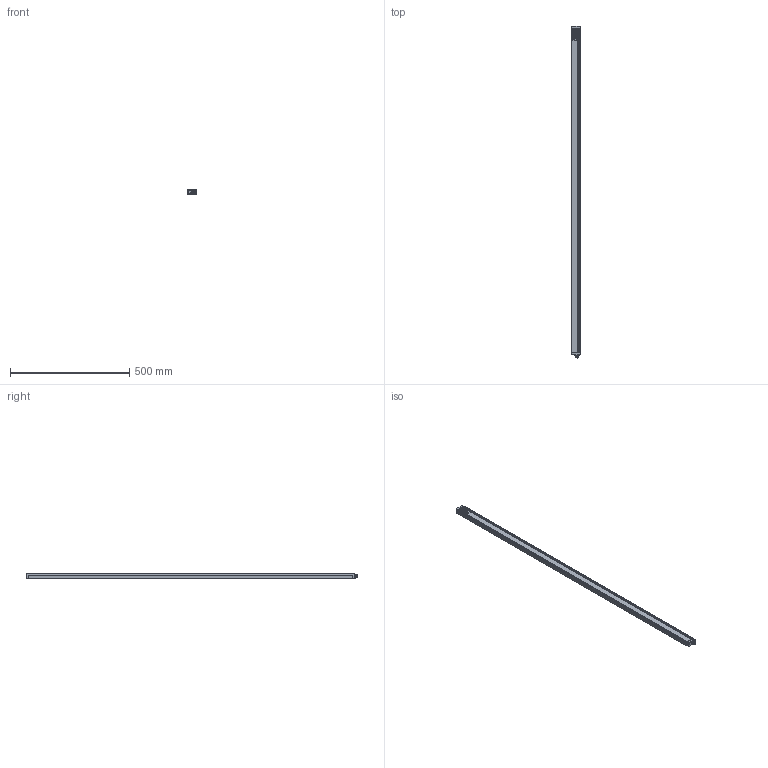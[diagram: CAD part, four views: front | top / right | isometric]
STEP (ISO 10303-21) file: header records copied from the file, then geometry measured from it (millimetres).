
FILE_DESCRIPTION(/* description */ (''),/* implementation_level */ '2;1');
FILE_NAME(/* name */ 'C:\Users\andre\SynologyDrive\Optoscan\Libreria Componenti\00 - Barriere\Barriera sorgente\Argo_1360_RX.stp',/* time_stamp */ '2021-04-22T12:01:13+02:00',/* author */ ('andre'),/* organization */ (''),/* preprocessor_version */ 'ST-DEVELOPER v18',/* originating_system */ 'Autodesk Inventor 2020',/* authorisation */ '');
FILE_SCHEMA (('AUTOMOTIVE_DESIGN { 1 0 10303 214 3 1 1 }'));
Length unit declared in the file: millimetre
Products named in the file (1): Argo_1360_RX
Bounding box: 40.5 x 1393.3 x 20.75 mm (x, y, z)
Volume: 276039 mm3; surface area: 364190.2 mm2
Topology: 1 solids, 1 shells, 692 faces, 1898 edges, 1217 vertices
Faces by surface type: plane 319, cylinder 195, bspline 94, torus 70, cone 8, sphere 6
Full cylindrical faces by diameter (mm): 1 x4, 2.459 x4, 2.5 x4, 3 x4, 3.5 x4, 5.5 x4, 8 x1, 10.5 x2, 11.75 x9, 15.7 x1, 17.5 x1
Entity records: 28165 total; most frequent: CARTESIAN_POINT 10195, ORIENTED_EDGE 3778, DIRECTION 3387, EDGE_CURVE 1889, VERTEX_POINT 1217, AXIS2_PLACEMENT_3D 1183, LINE 1021, VECTOR 1021
